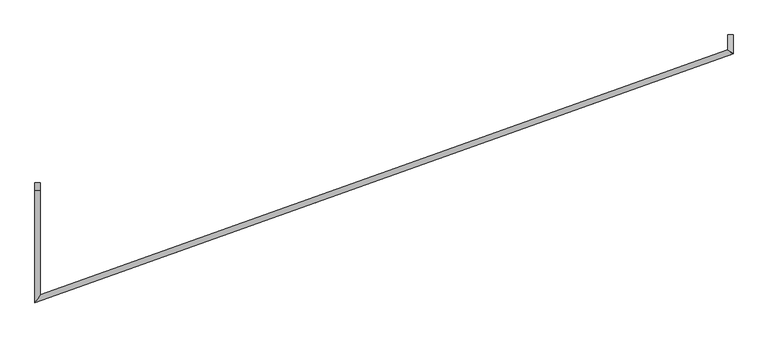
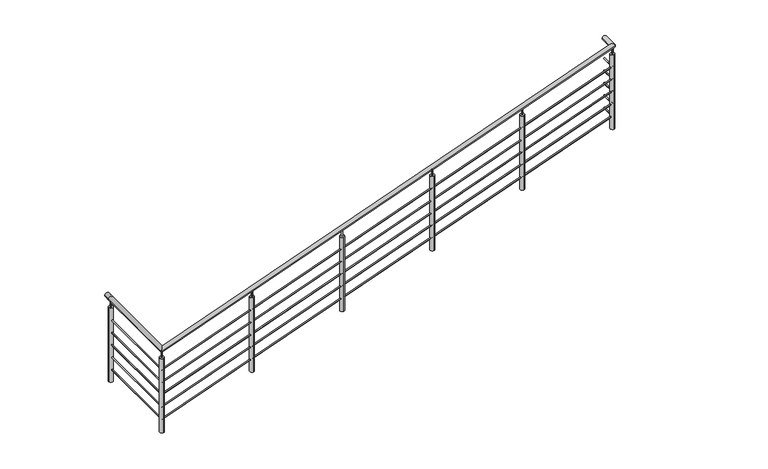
"""IFC4 building model written with IfcOpenShell, lengths in millimetres: railing geometry, Barandal general."""

import ifcopenshell
import ifcopenshell.guid

model = None  # the IFC model being written
_history = None  # IfcOwnerHistory: only IFC2X3 demands one
_inside = {}  # id of a spatial element -> (the spatial element, [elements in it])
_under = {}  # id of a project, library or spatial element -> (it, [spatial elements below it])
_declared = {}  # id of a project -> (the project, [libraries it declares])
_typed = {}  # id of a type object -> (the type object, [elements of that type])
_made_of = {}  # id of a material, layer set ... -> (it, [elements and type objects made of it])


def new_model(schema):
    """Start an empty IFC model of exactly this schema.

    Asked for "IFC4X3", IfcOpenShell would pick the latest addendum, in which some entities
    have other attributes; the version numbers below select the first issue.
    IFC2X3 requires an IfcOwnerHistory on every rooted entity: one is made here for all.
    """
    global model, _history
    if schema == "IFC4X3":
        model = ifcopenshell.file(schema_version=(4, 3, 0, 0))
    else:
        model = ifcopenshell.file(schema=schema)
    _inside.clear()
    _under.clear()
    _declared.clear()
    _typed.clear()
    _made_of.clear()
    _history = None
    if model.schema == "IFC2X3":
        org = make("IfcOrganization", Name="unknown")
        user = make(
            "IfcPersonAndOrganization",
            ThePerson=make("IfcPerson", FamilyName="unknown"),
            TheOrganization=org,
        )
        app = make(
            "IfcApplication",
            ApplicationDeveloper=org,
            Version="unknown",
            ApplicationFullName="unknown",
            ApplicationIdentifier="unknown",
        )
        _history = make(
            "IfcOwnerHistory",
            OwningUser=user,
            OwningApplication=app,
            ChangeAction="ADDED",
            CreationDate=0,
        )
    return model


def make(cls, **values):
    """One entity of the class cls with the attributes given. An attribute that is None is left unset."""
    return model.create_entity(
        cls, **{name: value for name, value in values.items() if value is not None}
    )


def rooted(cls, **values):
    """An entity with a GlobalId (a new one), such as an element, a storey or a relation."""
    return make(cls, GlobalId=ifcopenshell.guid.new(), OwnerHistory=_history, **values)


def si_unit(unit_type, name, prefix=None):
    """IfcSIUnit, for example si_unit("LENGTHUNIT", "METRE", prefix="MILLI")."""
    return make("IfcSIUnit", UnitType=unit_type, Prefix=prefix, Name=name)


def assignment(units):
    """IfcUnitAssignment: the units of a project."""
    return None if units is None else make("IfcUnitAssignment", Units=units)


def point(xyz):
    """IfcCartesianPoint."""
    return None if xyz is None else make("IfcCartesianPoint", Coordinates=xyz)


def direction(xyz):
    """IfcDirection."""
    return None if xyz is None else make("IfcDirection", DirectionRatios=xyz)


def frame(location, z_axis=None, x_axis=None):
    """IfcAxis2Placement3D, a coordinate frame: its origin and axes. An axis left out is left unset."""
    return make(
        "IfcAxis2Placement3D",
        Location=point(location),
        Axis=direction(z_axis),
        RefDirection=direction(x_axis),
    )


def frame_2d(location, x_axis=None):
    """IfcAxis2Placement2D, a coordinate frame in the plane: its origin and x axis."""
    return make(
        "IfcAxis2Placement2D", Location=point(location), RefDirection=direction(x_axis)
    )


def origin():
    """The frame at (0, 0, 0) with its axes left unset."""
    return frame((0.0, 0.0, 0.0))


def place(relative_to, where):
    """IfcLocalPlacement: puts the frame where relative to a parent placement (None: the world)."""
    return make(
        "IfcLocalPlacement", PlacementRelTo=relative_to, RelativePlacement=where
    )


def context(
    kind, dimensions, precision=None, world=None, true_north=None, identifier=None
):
    """IfcGeometricRepresentationContext, for example the 3D "Model" context."""
    return make(
        "IfcGeometricRepresentationContext",
        ContextIdentifier=identifier,
        ContextType=kind,
        CoordinateSpaceDimension=dimensions,
        Precision=precision,
        WorldCoordinateSystem=world,
        TrueNorth=true_north,
    )


def project(units=None, contexts=None):
    """IfcProject with its units and contexts."""
    return rooted(
        "IfcProject",
        Name="project",
        RepresentationContexts=contexts,
        UnitsInContext=assignment(units),
    )


def spatial(cls, under=None, at=None, **own):
    """A site, building, storey or space (cls), placed at a placement, below another one or the project."""
    s = rooted(cls, ObjectPlacement=at, **own)
    if under is not None:
        _under.setdefault(under.id(), (under, []))[1].append(s)
    return s


def circle_curve(where, radius):
    """IfcCircle in the frame where."""
    return make("IfcCircle", Position=where, Radius=radius)


def ellipse_curve(where, semi_axis1, semi_axis2):
    """IfcEllipse in the frame where."""
    return make(
        "IfcEllipse", Position=where, SemiAxis1=semi_axis1, SemiAxis2=semi_axis2
    )


def trimmed(basis, trim1, trim2, sense, master):
    """IfcTrimmedCurve: the piece of a basis curve between two trims."""
    return make(
        "IfcTrimmedCurve",
        BasisCurve=basis,
        Trim1=trim1,
        Trim2=trim2,
        SenseAgreement=sense,
        MasterRepresentation=master,
    )


def segment(curve, same_sense, transition):
    """IfcCompositeCurveSegment."""
    return make(
        "IfcCompositeCurveSegment",
        Transition=transition,
        SameSense=same_sense,
        ParentCurve=curve,
    )


def composite_curve(segments, self_intersect=None):
    """IfcCompositeCurve: segments joined end to end."""
    return make("IfcCompositeCurve", Segments=segments, SelfIntersect=self_intersect)


def outline(outer, holes=None, kind="AREA"):
    """IfcArbitraryClosedProfileDef: a profile drawn as a closed curve; with holes, ...WithVoids."""
    if holes is None:
        return make("IfcArbitraryClosedProfileDef", ProfileType=kind, OuterCurve=outer)
    return make(
        "IfcArbitraryProfileDefWithVoids",
        ProfileType=kind,
        OuterCurve=outer,
        InnerCurves=holes,
    )


def extrude(swept, where, along, depth):
    """IfcExtrudedAreaSolid: the profile swept, set in the frame where, extruded along a direction by depth."""
    return make(
        "IfcExtrudedAreaSolid",
        SweptArea=swept,
        Position=where,
        ExtrudedDirection=direction(along),
        Depth=depth,
    )


def shape(context_of_items, identifier, shape_type, items):
    """IfcShapeRepresentation: the items that make up one representation, for example the "Body"."""
    return make(
        "IfcShapeRepresentation",
        ContextOfItems=context_of_items,
        RepresentationIdentifier=identifier,
        RepresentationType=shape_type,
        Items=items,
    )


def source(mapping_origin, context_of_items, identifier, shape_type, items):
    """IfcRepresentationMap: a shape defined once, which mapped items show again and again."""
    return make(
        "IfcRepresentationMap",
        MappingOrigin=mapping_origin,
        MappedRepresentation=shape(context_of_items, identifier, shape_type, items),
    )


def transform(
    local_origin,
    x_axis=None,
    y_axis=None,
    z_axis=None,
    scale=None,
    scale2=None,
    scale3=None,
    uniform=True,
):
    """IfcCartesianTransformationOperator3D, or its non-uniform kind. x_axis, y_axis, z_axis: its Axis1, 2, 3."""
    if uniform:
        return make(
            "IfcCartesianTransformationOperator3D",
            Axis1=direction(x_axis),
            Axis2=direction(y_axis),
            LocalOrigin=point(local_origin),
            Scale=scale,
            Axis3=direction(z_axis),
        )
    return make(
        "IfcCartesianTransformationOperator3DnonUniform",
        Axis1=direction(x_axis),
        Axis2=direction(y_axis),
        LocalOrigin=point(local_origin),
        Scale=scale,
        Axis3=direction(z_axis),
        Scale2=scale2,
        Scale3=scale3,
    )


def mapped(mapping_source, mapping_target):
    """IfcMappedItem: shows the shape of a source again, moved by a transform."""
    return make(
        "IfcMappedItem", MappingSource=mapping_source, MappingTarget=mapping_target
    )


def made_of(thing, what):
    """Note that an element or type object is made of a material, layer set ...; save() writes the relation."""
    if what is not None:
        _made_of.setdefault(what.id(), (what, []))[1].append(thing)
    return thing


def element(
    cls,
    number,
    at=None,
    inside=None,
    cuts=None,
    type_object=None,
    material=None,
    context=None,
    identifier="Body",
    shape_type=None,
    held_by="IfcProductDefinitionShape",
    body=None,
    shapes=None,
    **own,
):
    """One element of the class cls, such as IfcWall. Its Tag is "e" and its number.

    at: its placement. inside: the storey or other place that contains it. cuts: it is an
    opening in that element (IfcRelVoidsElement). A single representation is given by context,
    identifier, shape_type and body (its items); several are given by shapes. held_by: the class
    of the entity that holds the representations. save() writes the other relations.
    """
    e = rooted(cls, Tag="e%d" % number, ObjectPlacement=at, **own)
    if body is not None:
        shapes = [shape(context, identifier, shape_type, body)]
    if shapes is not None:
        e.Representation = make(held_by, Representations=shapes)
    if inside is not None:
        _inside.setdefault(inside.id(), (inside, []))[1].append(e)
    if cuts is not None:
        rooted(
            "IfcRelVoidsElement", RelatingBuildingElement=cuts, RelatedOpeningElement=e
        )
    if type_object is not None:
        _typed.setdefault(type_object.id(), (type_object, []))[1].append(e)
    return made_of(e, material)


def aggregate(whole, parts):
    """IfcRelAggregates: a whole, such as a stair, and the parts it consists of."""
    return rooted("IfcRelAggregates", RelatingObject=whole, RelatedObjects=parts)


def save(model, path):
    """Write the relations noted so far, then the file.

    IfcRelAggregates (storeys below a building ...), IfcRelContainedInSpatialStructure (elements
    in a storey), IfcRelDefinesByType, IfcRelAssociatesMaterial and IfcRelDeclares: one each for
    every whole, place, type object, material and project.
    """
    for whole, parts in _under.values():
        aggregate(whole, parts)
    for where, things in _inside.values():
        rooted(
            "IfcRelContainedInSpatialStructure",
            RelatedElements=things,
            RelatingStructure=where,
        )
    for kind, things in _typed.values():
        rooted("IfcRelDefinesByType", RelatedObjects=things, RelatingType=kind)
    for what, things in _made_of.values():
        rooted("IfcRelAssociatesMaterial", RelatedObjects=things, RelatingMaterial=what)
    for by, libraries in _declared.values():
        rooted("IfcRelDeclares", RelatingContext=by, RelatedDefinitions=libraries)
    model.write(path)


def plane_surface(at):
    """IfcPlane: the flat surface through the origin of the frame at, square to its z axis."""
    return make("IfcPlane", Position=at)


def cylinder_surface(at, radius):
    """IfcCylindricalSurface: all points at the distance radius from the z axis of the frame at."""
    return make("IfcCylindricalSurface", Position=at, Radius=radius)


def advanced_brep(points, edges, surfaces, faces):
    """IfcAdvancedBrep: a solid bounded by faces that lie on surfaces and meet in shared edges.

    An edge is (start, end): straight between two places in points (the first is 0);
    or (start, end, curve); or (start, end, curve, False) where it runs against its curve.
    A face is (place in surfaces, loops), or (place, loops, False) where it looks against
    its surface's normal. A loop lists edges by number (the first is 1), with a minus sign
    where the edge is run from its end to its start. The first loop is the outer one.
    """
    corners = [point(p) for p in points]
    vertices = [make("IfcVertexPoint", VertexGeometry=c) for c in corners]
    made = []
    for start, end, *more in edges:
        made.append(
            make(
                "IfcEdgeCurve",
                EdgeStart=vertices[start],
                EdgeEnd=vertices[end],
                EdgeGeometry=more[0] if more else make("IfcPolyline", Points=[corners[start], corners[end]]),
                SameSense=more[1] if len(more) > 1 else True,
            )
        )
    hull = []
    for where, loops, *sense in faces:
        bounds = []
        for j, loop in enumerate(loops):
            ring = [make("IfcOrientedEdge", EdgeElement=made[abs(k) - 1], Orientation=k > 0) for k in loop]
            bounds.append(
                make(
                    "IfcFaceOuterBound" if j == 0 else "IfcFaceBound",
                    Bound=make("IfcEdgeLoop", EdgeList=ring),
                    Orientation=True,
                )
            )
        hull.append(make("IfcAdvancedFace", Bounds=bounds, FaceSurface=surfaces[where], SameSense=sense[0] if sense else True))
    return make("IfcAdvancedBrep", Outer=make("IfcClosedShell", CfsFaces=hull))


def railing_ef50bcf6(model_context):
    return source(origin(), model_context, "Body", "SolidModel", [
        advanced_brep(
        [(42883.0275078, 24829.0112971, 4000.0), (42832.2275078, 24829.0112971, 4000.0), (42883.0275078, 23850.0761645, 4000.0), (42832.2275078, 23778.0442839, 4000.0), (49344.1059119, 26152.5044571, 4000.0), (49394.9059119, 26116.6780983, 4000.0), (49344.1059119, 26294.0174003, 4000.0), (49394.9059119, 26294.0174003, 4000.0)],
        [
            (0, 1, circle_curve(frame((42857.6275078, 24829.0112971, 4000.0), z_axis=(0.0, 1.0, 0.0), x_axis=(-1.0, 0.0, 0.0)), 25.4)),
            (1, 0, circle_curve(frame((42857.6275078, 24829.0112971, 4000.0), z_axis=(0.0, 1.0, 0.0), x_axis=(-1.0, 0.0, 0.0)), 25.4)),
            (0, 2),
            (2, 3, ellipse_curve(frame((42857.6275078, 23814.0602242, 4000.0), z_axis=(-0.8172138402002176, 0.5763345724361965, 0.0), x_axis=(0.5763345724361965, 0.8172138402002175, 0.0)), 44.071623, 25.4)),
            (3, 1),
            (3, 2, ellipse_curve(frame((42857.6275078, 23814.0602242, 4000.0), z_axis=(-0.8172138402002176, 0.5763345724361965, 0.0), x_axis=(0.5763345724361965, 0.8172138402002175, 0.0)), 44.071623, 25.4)),
            (2, 4),
            (4, 5, ellipse_curve(frame((49369.5059119, 26134.5912777, 4000.0), z_axis=(-0.5763345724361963, -0.8172138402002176, 0.0), x_axis=(-0.8172138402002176, 0.5763345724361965, 0.0)), 31.0812161, 25.4)),
            (5, 3),
            (5, 4, ellipse_curve(frame((49369.5059119, 26134.5912777, 4000.0), z_axis=(-0.5763345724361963, -0.8172138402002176, 0.0), x_axis=(-0.8172138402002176, 0.5763345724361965, 0.0)), 31.0812161, 25.4)),
            (6, 7, circle_curve(frame((49369.5059119, 26294.0174003, 4000.0), z_axis=(0.0, 1.0, 0.0), x_axis=(1.0, 0.0, 0.0)), 25.4)),
            (7, 6, circle_curve(frame((49369.5059119, 26294.0174003, 4000.0), z_axis=(0.0, 1.0, 0.0), x_axis=(1.0, 0.0, 0.0)), 25.4)),
            (4, 6),
            (7, 5),
        ],
        [
            plane_surface(frame((42857.6275078, 24829.0112971, 4000.0), z_axis=(0.0, 1.0, 0.0), x_axis=(0.0, 0.0, -1.0))),
            cylinder_surface(frame((42857.6275078, 24829.0112971, 4000.0), z_axis=(0.0, 1.0, 0.0), x_axis=(-1.0, 0.0, 0.0)), 25.4),
            cylinder_surface(frame((42857.6275078, 23814.0602242, 4000.0), z_axis=(-0.941977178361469, -0.3356769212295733, 0.0), x_axis=(0.3356769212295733, -0.941977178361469, 0.0)), 25.4),
            plane_surface(frame((49369.5059119, 26294.0174003, 4000.0), z_axis=(0.0, 1.0, 0.0), x_axis=(0.0, 0.0, 1.0))),
            cylinder_surface(frame((49369.5059119, 26134.5912777, 4000.0), z_axis=(0.0, -1.0, 0.0), x_axis=(1.0, 0.0, 0.0)), 25.4),
        ],
        [
            (0, [[1, 2]]),
            (1, [[-1, 3, 4, 5]]),
            (1, [[-2, -5, 6, -3]]),
            (2, [[-4, 7, 8, 9]]),
            (2, [[-6, -9, 10, -7]]),
            (3, [[11, 12]]),
            (4, [[-8, 13, -12, 14]]),
            (4, [[-10, -14, -11, -13]]),
        ],
    ),
        advanced_brep(
        [(42863.9775078, 24829.0112971, 3750.0), (42851.2775078, 24829.0112971, 3750.0), (42863.9775078, 23823.0642093, 3750.0), (42851.2775078, 23805.0562391, 3750.0), (49363.1559119, 26139.0695726, 3750.0), (49375.8559119, 26130.1129829, 3750.0), (49363.1559119, 26294.0174003, 3750.0), (49375.8559119, 26294.0174003, 3750.0)],
        [
            (0, 1, circle_curve(frame((42857.6275078, 24829.0112971, 3750.0), z_axis=(0.0, 1.0, 0.0), x_axis=(-1.0, 0.0, 0.0)), 6.35)),
            (1, 0, circle_curve(frame((42857.6275078, 24829.0112971, 3750.0), z_axis=(0.0, 1.0, 0.0), x_axis=(-1.0, 0.0, 0.0)), 6.35)),
            (0, 2),
            (2, 3, ellipse_curve(frame((42857.6275078, 23814.0602242, 3750.0), z_axis=(-0.8172138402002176, 0.5763345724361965, 0.0), x_axis=(0.5763345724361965, 0.8172138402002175, 0.0)), 11.0179058, 6.35)),
            (3, 1),
            (3, 2, ellipse_curve(frame((42857.6275078, 23814.0602242, 3750.0), z_axis=(-0.8172138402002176, 0.5763345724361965, 0.0), x_axis=(0.5763345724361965, 0.8172138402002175, 0.0)), 11.0179058, 6.35)),
            (2, 4),
            (4, 5, ellipse_curve(frame((49369.5059119, 26134.5912777, 3750.0), z_axis=(-0.5763345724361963, -0.8172138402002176, 0.0), x_axis=(-0.8172138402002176, 0.5763345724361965, 0.0)), 7.770304, 6.35)),
            (5, 3),
            (5, 4, ellipse_curve(frame((49369.5059119, 26134.5912777, 3750.0), z_axis=(-0.5763345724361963, -0.8172138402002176, 0.0), x_axis=(-0.8172138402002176, 0.5763345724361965, 0.0)), 7.770304, 6.35)),
            (6, 7, circle_curve(frame((49369.5059119, 26294.0174003, 3750.0), z_axis=(0.0, 1.0, 0.0), x_axis=(1.0, 0.0, 0.0)), 6.35)),
            (7, 6, circle_curve(frame((49369.5059119, 26294.0174003, 3750.0), z_axis=(0.0, 1.0, 0.0), x_axis=(1.0, 0.0, 0.0)), 6.35)),
            (4, 6),
            (7, 5),
        ],
        [
            plane_surface(frame((42857.6275078, 24829.0112971, 3750.0), z_axis=(0.0, 1.0, 0.0), x_axis=(0.0, 0.0, -1.0))),
            cylinder_surface(frame((42857.6275078, 24829.0112971, 3750.0), z_axis=(0.0, 1.0, 0.0), x_axis=(-1.0, 0.0, 0.0)), 6.35),
            cylinder_surface(frame((42857.6275078, 23814.0602242, 3750.0), z_axis=(-0.941977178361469, -0.3356769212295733, 0.0), x_axis=(0.3356769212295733, -0.941977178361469, 0.0)), 6.35),
            plane_surface(frame((49369.5059119, 26294.0174003, 3750.0), z_axis=(0.0, 1.0, 0.0), x_axis=(0.0, 0.0, 1.0))),
            cylinder_surface(frame((49369.5059119, 26134.5912777, 3750.0), z_axis=(0.0, -1.0, 0.0), x_axis=(1.0, 0.0, 0.0)), 6.35),
        ],
        [
            (0, [[1, 2]]),
            (1, [[-1, 3, 4, 5]]),
            (1, [[-2, -5, 6, -3]]),
            (2, [[-4, 7, 8, 9]]),
            (2, [[-6, -9, 10, -7]]),
            (3, [[11, 12]]),
            (4, [[-8, 13, -12, 14]]),
            (4, [[-10, -14, -11, -13]]),
        ],
    ),
        advanced_brep(
        [(42863.9775078, 24829.0112971, 3600.0), (42851.2775078, 24829.0112971, 3600.0), (42863.9775078, 23823.0642093, 3600.0), (42851.2775078, 23805.0562391, 3600.0), (49363.1559119, 26139.0695726, 3600.0), (49375.8559119, 26130.1129829, 3600.0), (49363.1559119, 26294.0174003, 3600.0), (49375.8559119, 26294.0174003, 3600.0)],
        [
            (0, 1, circle_curve(frame((42857.6275078, 24829.0112971, 3600.0), z_axis=(0.0, 1.0, 0.0), x_axis=(-1.0, 0.0, 0.0)), 6.35)),
            (1, 0, circle_curve(frame((42857.6275078, 24829.0112971, 3600.0), z_axis=(0.0, 1.0, 0.0), x_axis=(-1.0, 0.0, 0.0)), 6.35)),
            (0, 2),
            (2, 3, ellipse_curve(frame((42857.6275078, 23814.0602242, 3600.0), z_axis=(-0.8172138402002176, 0.5763345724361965, 0.0), x_axis=(0.5763345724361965, 0.8172138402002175, 0.0)), 11.0179058, 6.35)),
            (3, 1),
            (3, 2, ellipse_curve(frame((42857.6275078, 23814.0602242, 3600.0), z_axis=(-0.8172138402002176, 0.5763345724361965, 0.0), x_axis=(0.5763345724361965, 0.8172138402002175, 0.0)), 11.0179058, 6.35)),
            (2, 4),
            (4, 5, ellipse_curve(frame((49369.5059119, 26134.5912777, 3600.0), z_axis=(-0.5763345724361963, -0.8172138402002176, 0.0), x_axis=(-0.8172138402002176, 0.5763345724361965, 0.0)), 7.770304, 6.35)),
            (5, 3),
            (5, 4, ellipse_curve(frame((49369.5059119, 26134.5912777, 3600.0), z_axis=(-0.5763345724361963, -0.8172138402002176, 0.0), x_axis=(-0.8172138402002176, 0.5763345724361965, 0.0)), 7.770304, 6.35)),
            (6, 7, circle_curve(frame((49369.5059119, 26294.0174003, 3600.0), z_axis=(0.0, 1.0, 0.0), x_axis=(1.0, 0.0, 0.0)), 6.35)),
            (7, 6, circle_curve(frame((49369.5059119, 26294.0174003, 3600.0), z_axis=(0.0, 1.0, 0.0), x_axis=(1.0, 0.0, 0.0)), 6.35)),
            (4, 6),
            (7, 5),
        ],
        [
            plane_surface(frame((42857.6275078, 24829.0112971, 3600.0), z_axis=(0.0, 1.0, 0.0), x_axis=(0.0, 0.0, -1.0))),
            cylinder_surface(frame((42857.6275078, 24829.0112971, 3600.0), z_axis=(0.0, 1.0, 0.0), x_axis=(-1.0, 0.0, 0.0)), 6.35),
            cylinder_surface(frame((42857.6275078, 23814.0602242, 3600.0), z_axis=(-0.941977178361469, -0.3356769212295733, 0.0), x_axis=(0.3356769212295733, -0.941977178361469, 0.0)), 6.35),
            plane_surface(frame((49369.5059119, 26294.0174003, 3600.0), z_axis=(0.0, 1.0, 0.0), x_axis=(0.0, 0.0, 1.0))),
            cylinder_surface(frame((49369.5059119, 26134.5912777, 3600.0), z_axis=(0.0, -1.0, 0.0), x_axis=(1.0, 0.0, 0.0)), 6.35),
        ],
        [
            (0, [[1, 2]]),
            (1, [[-1, 3, 4, 5]]),
            (1, [[-2, -5, 6, -3]]),
            (2, [[-4, 7, 8, 9]]),
            (2, [[-6, -9, 10, -7]]),
            (3, [[11, 12]]),
            (4, [[-8, 13, -12, 14]]),
            (4, [[-10, -14, -11, -13]]),
        ],
    ),
        advanced_brep(
        [(42863.9775078, 24829.0112971, 3450.0), (42851.2775078, 24829.0112971, 3450.0), (42863.9775078, 23823.0642093, 3450.0), (42851.2775078, 23805.0562391, 3450.0), (49363.1559119, 26139.0695726, 3450.0), (49375.8559119, 26130.1129829, 3450.0), (49363.1559119, 26294.0174003, 3450.0), (49375.8559119, 26294.0174003, 3450.0)],
        [
            (0, 1, circle_curve(frame((42857.6275078, 24829.0112971, 3450.0), z_axis=(0.0, 1.0, 0.0), x_axis=(-1.0, 0.0, 0.0)), 6.35)),
            (1, 0, circle_curve(frame((42857.6275078, 24829.0112971, 3450.0), z_axis=(0.0, 1.0, 0.0), x_axis=(-1.0, 0.0, 0.0)), 6.35)),
            (0, 2),
            (2, 3, ellipse_curve(frame((42857.6275078, 23814.0602242, 3450.0), z_axis=(-0.8172138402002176, 0.5763345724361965, 0.0), x_axis=(0.5763345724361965, 0.8172138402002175, 0.0)), 11.0179058, 6.35)),
            (3, 1),
            (3, 2, ellipse_curve(frame((42857.6275078, 23814.0602242, 3450.0), z_axis=(-0.8172138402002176, 0.5763345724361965, 0.0), x_axis=(0.5763345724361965, 0.8172138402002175, 0.0)), 11.0179058, 6.35)),
            (2, 4),
            (4, 5, ellipse_curve(frame((49369.5059119, 26134.5912777, 3450.0), z_axis=(-0.5763345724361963, -0.8172138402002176, 0.0), x_axis=(-0.8172138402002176, 0.5763345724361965, 0.0)), 7.770304, 6.35)),
            (5, 3),
            (5, 4, ellipse_curve(frame((49369.5059119, 26134.5912777, 3450.0), z_axis=(-0.5763345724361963, -0.8172138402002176, 0.0), x_axis=(-0.8172138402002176, 0.5763345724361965, 0.0)), 7.770304, 6.35)),
            (6, 7, circle_curve(frame((49369.5059119, 26294.0174003, 3450.0), z_axis=(0.0, 1.0, 0.0), x_axis=(1.0, 0.0, 0.0)), 6.35)),
            (7, 6, circle_curve(frame((49369.5059119, 26294.0174003, 3450.0), z_axis=(0.0, 1.0, 0.0), x_axis=(1.0, 0.0, 0.0)), 6.35)),
            (4, 6),
            (7, 5),
        ],
        [
            plane_surface(frame((42857.6275078, 24829.0112971, 3450.0), z_axis=(0.0, 1.0, 0.0), x_axis=(0.0, 0.0, -1.0))),
            cylinder_surface(frame((42857.6275078, 24829.0112971, 3450.0), z_axis=(0.0, 1.0, 0.0), x_axis=(-1.0, 0.0, 0.0)), 6.35),
            cylinder_surface(frame((42857.6275078, 23814.0602242, 3450.0), z_axis=(-0.941977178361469, -0.3356769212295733, 0.0), x_axis=(0.3356769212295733, -0.941977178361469, 0.0)), 6.35),
            plane_surface(frame((49369.5059119, 26294.0174003, 3450.0), z_axis=(0.0, 1.0, 0.0), x_axis=(0.0, 0.0, 1.0))),
            cylinder_surface(frame((49369.5059119, 26134.5912777, 3450.0), z_axis=(0.0, -1.0, 0.0), x_axis=(1.0, 0.0, 0.0)), 6.35),
        ],
        [
            (0, [[1, 2]]),
            (1, [[-1, 3, 4, 5]]),
            (1, [[-2, -5, 6, -3]]),
            (2, [[-4, 7, 8, 9]]),
            (2, [[-6, -9, 10, -7]]),
            (3, [[11, 12]]),
            (4, [[-8, 13, -12, 14]]),
            (4, [[-10, -14, -11, -13]]),
        ],
    ),
        advanced_brep(
        [(42863.9775078, 24829.0112971, 3300.0), (42851.2775078, 24829.0112971, 3300.0), (42863.9775078, 23823.0642093, 3300.0), (42851.2775078, 23805.0562391, 3300.0), (49363.1559119, 26139.0695726, 3300.0), (49375.8559119, 26130.1129829, 3300.0), (49363.1559119, 26294.0174003, 3300.0), (49375.8559119, 26294.0174003, 3300.0)],
        [
            (0, 1, circle_curve(frame((42857.6275078, 24829.0112971, 3300.0), z_axis=(0.0, 1.0, 0.0), x_axis=(-1.0, 0.0, 0.0)), 6.35)),
            (1, 0, circle_curve(frame((42857.6275078, 24829.0112971, 3300.0), z_axis=(0.0, 1.0, 0.0), x_axis=(-1.0, 0.0, 0.0)), 6.35)),
            (0, 2),
            (2, 3, ellipse_curve(frame((42857.6275078, 23814.0602242, 3300.0), z_axis=(-0.8172138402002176, 0.5763345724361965, 0.0), x_axis=(0.5763345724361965, 0.8172138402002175, 0.0)), 11.0179058, 6.35)),
            (3, 1),
            (3, 2, ellipse_curve(frame((42857.6275078, 23814.0602242, 3300.0), z_axis=(-0.8172138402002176, 0.5763345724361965, 0.0), x_axis=(0.5763345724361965, 0.8172138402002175, 0.0)), 11.0179058, 6.35)),
            (2, 4),
            (4, 5, ellipse_curve(frame((49369.5059119, 26134.5912777, 3300.0), z_axis=(-0.5763345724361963, -0.8172138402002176, 0.0), x_axis=(-0.8172138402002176, 0.5763345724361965, 0.0)), 7.770304, 6.35)),
            (5, 3),
            (5, 4, ellipse_curve(frame((49369.5059119, 26134.5912777, 3300.0), z_axis=(-0.5763345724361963, -0.8172138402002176, 0.0), x_axis=(-0.8172138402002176, 0.5763345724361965, 0.0)), 7.770304, 6.35)),
            (6, 7, circle_curve(frame((49369.5059119, 26294.0174003, 3300.0), z_axis=(0.0, 1.0, 0.0), x_axis=(1.0, 0.0, 0.0)), 6.35)),
            (7, 6, circle_curve(frame((49369.5059119, 26294.0174003, 3300.0), z_axis=(0.0, 1.0, 0.0), x_axis=(1.0, 0.0, 0.0)), 6.35)),
            (4, 6),
            (7, 5),
        ],
        [
            plane_surface(frame((42857.6275078, 24829.0112971, 3300.0), z_axis=(0.0, 1.0, 0.0), x_axis=(0.0, 0.0, -1.0))),
            cylinder_surface(frame((42857.6275078, 24829.0112971, 3300.0), z_axis=(0.0, 1.0, 0.0), x_axis=(-1.0, 0.0, 0.0)), 6.35),
            cylinder_surface(frame((42857.6275078, 23814.0602242, 3300.0), z_axis=(-0.941977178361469, -0.3356769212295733, 0.0), x_axis=(0.3356769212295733, -0.941977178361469, 0.0)), 6.35),
            plane_surface(frame((49369.5059119, 26294.0174003, 3300.0), z_axis=(0.0, 1.0, 0.0), x_axis=(0.0, 0.0, 1.0))),
            cylinder_surface(frame((49369.5059119, 26134.5912777, 3300.0), z_axis=(0.0, -1.0, 0.0), x_axis=(1.0, 0.0, 0.0)), 6.35),
        ],
        [
            (0, [[1, 2]]),
            (1, [[-1, 3, 4, 5]]),
            (1, [[-2, -5, 6, -3]]),
            (2, [[-4, 7, 8, 9]]),
            (2, [[-6, -9, 10, -7]]),
            (3, [[11, 12]]),
            (4, [[-8, 13, -12, 14]]),
            (4, [[-10, -14, -11, -13]]),
        ],
    ),
        advanced_brep(
        [(42863.9775078, 24829.0112971, 3150.0), (42851.2775078, 24829.0112971, 3150.0), (42863.9775078, 23823.0642093, 3150.0), (42851.2775078, 23805.0562391, 3150.0), (49363.1559119, 26139.0695726, 3150.0), (49375.8559119, 26130.1129829, 3150.0), (49363.1559119, 26294.0174003, 3150.0), (49375.8559119, 26294.0174003, 3150.0)],
        [
            (0, 1, circle_curve(frame((42857.6275078, 24829.0112971, 3150.0), z_axis=(0.0, 1.0, 0.0), x_axis=(-1.0, 0.0, 0.0)), 6.35)),
            (1, 0, circle_curve(frame((42857.6275078, 24829.0112971, 3150.0), z_axis=(0.0, 1.0, 0.0), x_axis=(-1.0, 0.0, 0.0)), 6.35)),
            (0, 2),
            (2, 3, ellipse_curve(frame((42857.6275078, 23814.0602242, 3150.0), z_axis=(-0.8172138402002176, 0.5763345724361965, 0.0), x_axis=(0.5763345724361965, 0.8172138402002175, 0.0)), 11.0179058, 6.35)),
            (3, 1),
            (3, 2, ellipse_curve(frame((42857.6275078, 23814.0602242, 3150.0), z_axis=(-0.8172138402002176, 0.5763345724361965, 0.0), x_axis=(0.5763345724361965, 0.8172138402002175, 0.0)), 11.0179058, 6.35)),
            (2, 4),
            (4, 5, ellipse_curve(frame((49369.5059119, 26134.5912777, 3150.0), z_axis=(-0.5763345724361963, -0.8172138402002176, 0.0), x_axis=(-0.8172138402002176, 0.5763345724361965, 0.0)), 7.770304, 6.35)),
            (5, 3),
            (5, 4, ellipse_curve(frame((49369.5059119, 26134.5912777, 3150.0), z_axis=(-0.5763345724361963, -0.8172138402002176, 0.0), x_axis=(-0.8172138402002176, 0.5763345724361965, 0.0)), 7.770304, 6.35)),
            (6, 7, circle_curve(frame((49369.5059119, 26294.0174003, 3150.0), z_axis=(0.0, 1.0, 0.0), x_axis=(1.0, 0.0, 0.0)), 6.35)),
            (7, 6, circle_curve(frame((49369.5059119, 26294.0174003, 3150.0), z_axis=(0.0, 1.0, 0.0), x_axis=(1.0, 0.0, 0.0)), 6.35)),
            (4, 6),
            (7, 5),
        ],
        [
            plane_surface(frame((42857.6275078, 24829.0112971, 3150.0), z_axis=(0.0, 1.0, 0.0), x_axis=(0.0, 0.0, -1.0))),
            cylinder_surface(frame((42857.6275078, 24829.0112971, 3150.0), z_axis=(0.0, 1.0, 0.0), x_axis=(-1.0, 0.0, 0.0)), 6.35),
            cylinder_surface(frame((42857.6275078, 23814.0602242, 3150.0), z_axis=(-0.941977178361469, -0.3356769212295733, 0.0), x_axis=(0.3356769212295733, -0.941977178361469, 0.0)), 6.35),
            plane_surface(frame((49369.5059119, 26294.0174003, 3150.0), z_axis=(0.0, 1.0, 0.0), x_axis=(0.0, 0.0, 1.0))),
            cylinder_surface(frame((49369.5059119, 26134.5912777, 3150.0), z_axis=(0.0, -1.0, 0.0), x_axis=(1.0, 0.0, 0.0)), 6.35),
        ],
        [
            (0, [[1, 2]]),
            (1, [[-1, 3, 4, 5]]),
            (1, [[-2, -5, 6, -3]]),
            (2, [[-4, 7, 8, 9]]),
            (2, [[-6, -9, 10, -7]]),
            (3, [[11, 12]]),
            (4, [[-8, 13, -12, 14]]),
            (4, [[-10, -14, -11, -13]]),
        ],
    ),
        extrude(outline(composite_curve([segment(trimmed(circle_curve(frame_2d((49369.5059119, 26134.5912777)), 6.35), [point((49371.6374604, 26128.6097226))], [point((49367.3743635, 26140.5728328))], False, "CARTESIAN"), True, "CONTINUOUS"), segment(trimmed(circle_curve(frame_2d((49369.5059119, 26134.5912777)), 6.35), [point((49367.3743635, 26140.5728328))], [point((49371.6374604, 26128.6097226))], False, "CARTESIAN"), True, "CONTINUOUS")], self_intersect=False)), frame((0.0, 0.0, 3899.6), z_axis=(0.0, 0.0, 1.0), x_axis=(1.0, 0.0, 0.0)), (0.0, 0.0, 1.0), 75.0),
        extrude(outline(composite_curve([segment(trimmed(circle_curve(frame_2d((49369.5059119, 26134.5912777)), 25.4), [point((49378.0321057, 26110.6650574))], [point((49360.9797181, 26158.517498))], False, "CARTESIAN"), True, "CONTINUOUS"), segment(trimmed(circle_curve(frame_2d((49369.5059119, 26134.5912777)), 25.4), [point((49360.9797181, 26158.517498))], [point((49378.0321057, 26110.6650574))], False, "CARTESIAN"), True, "CONTINUOUS")], self_intersect=False)), frame((0.0, 0.0, 3000.0), z_axis=(0.0, 0.0, 1.0), x_axis=(1.0, 0.0, 0.0)), (0.0, 0.0, 1.0), 899.6),
        extrude(outline(composite_curve([segment(trimmed(circle_curve(frame_2d((48067.1302311, 25670.485067)), 6.35), [point((48069.2617796, 25664.5035119))], [point((48064.9986827, 25676.4666221))], False, "CARTESIAN"), True, "CONTINUOUS"), segment(trimmed(circle_curve(frame_2d((48067.1302311, 25670.485067)), 6.35), [point((48064.9986827, 25676.4666221))], [point((48069.2617796, 25664.5035119))], False, "CARTESIAN"), True, "CONTINUOUS")], self_intersect=False)), frame((0.0, 0.0, 3899.6), z_axis=(0.0, 0.0, 1.0), x_axis=(1.0, 0.0, 0.0)), (0.0, 0.0, 1.0), 75.0),
        extrude(outline(composite_curve([segment(trimmed(circle_curve(frame_2d((48067.1302311, 25670.485067)), 25.4), [point((48075.6564249, 25646.5588467))], [point((48058.6040373, 25694.4112873))], False, "CARTESIAN"), True, "CONTINUOUS"), segment(trimmed(circle_curve(frame_2d((48067.1302311, 25670.485067)), 25.4), [point((48058.6040373, 25694.4112873))], [point((48075.6564249, 25646.5588467))], False, "CARTESIAN"), True, "CONTINUOUS")], self_intersect=False)), frame((0.0, 0.0, 3000.0), z_axis=(0.0, 0.0, 1.0), x_axis=(1.0, 0.0, 0.0)), (0.0, 0.0, 1.0), 899.6),
        extrude(outline(composite_curve([segment(trimmed(circle_curve(frame_2d((46764.7545503, 25206.3788563)), 6.35), [point((46766.8860987, 25200.3973012))], [point((46762.6230018, 25212.3604114))], False, "CARTESIAN"), True, "CONTINUOUS"), segment(trimmed(circle_curve(frame_2d((46764.7545503, 25206.3788563)), 6.35), [point((46762.6230018, 25212.3604114))], [point((46766.8860987, 25200.3973012))], False, "CARTESIAN"), True, "CONTINUOUS")], self_intersect=False)), frame((0.0, 0.0, 3899.6), z_axis=(0.0, 0.0, 1.0), x_axis=(1.0, 0.0, 0.0)), (0.0, 0.0, 1.0), 75.0),
        extrude(outline(composite_curve([segment(trimmed(circle_curve(frame_2d((46764.7545503, 25206.3788563)), 25.4), [point((46773.2807441, 25182.452636))], [point((46756.2283565, 25230.3050766))], False, "CARTESIAN"), True, "CONTINUOUS"), segment(trimmed(circle_curve(frame_2d((46764.7545503, 25206.3788563)), 25.4), [point((46756.2283565, 25230.3050766))], [point((46773.2807441, 25182.452636))], False, "CARTESIAN"), True, "CONTINUOUS")], self_intersect=False)), frame((0.0, 0.0, 3000.0), z_axis=(0.0, 0.0, 1.0), x_axis=(1.0, 0.0, 0.0)), (0.0, 0.0, 1.0), 899.6),
        extrude(outline(composite_curve([segment(trimmed(circle_curve(frame_2d((45462.3788695, 24742.2726456)), 6.35), [point((45464.5104179, 24736.2910905))], [point((45460.247321, 24748.2542007))], False, "CARTESIAN"), True, "CONTINUOUS"), segment(trimmed(circle_curve(frame_2d((45462.3788695, 24742.2726456)), 6.35), [point((45460.247321, 24748.2542007))], [point((45464.5104179, 24736.2910905))], False, "CARTESIAN"), True, "CONTINUOUS")], self_intersect=False)), frame((0.0, 0.0, 3899.6), z_axis=(0.0, 0.0, 1.0), x_axis=(1.0, 0.0, 0.0)), (0.0, 0.0, 1.0), 75.0),
        extrude(outline(composite_curve([segment(trimmed(circle_curve(frame_2d((45462.3788695, 24742.2726456)), 25.4), [point((45470.9050633, 24718.3464253))], [point((45453.8526757, 24766.1988659))], False, "CARTESIAN"), True, "CONTINUOUS"), segment(trimmed(circle_curve(frame_2d((45462.3788695, 24742.2726456)), 25.4), [point((45453.8526757, 24766.1988659))], [point((45470.9050633, 24718.3464253))], False, "CARTESIAN"), True, "CONTINUOUS")], self_intersect=False)), frame((0.0, 0.0, 3000.0), z_axis=(0.0, 0.0, 1.0), x_axis=(1.0, 0.0, 0.0)), (0.0, 0.0, 1.0), 899.6),
        extrude(outline(composite_curve([segment(trimmed(circle_curve(frame_2d((44160.0031887, 24278.1664349)), 6.35), [point((44162.1347371, 24272.1848798))], [point((44157.8716402, 24284.14799))], False, "CARTESIAN"), True, "CONTINUOUS"), segment(trimmed(circle_curve(frame_2d((44160.0031887, 24278.1664349)), 6.35), [point((44157.8716402, 24284.14799))], [point((44162.1347371, 24272.1848798))], False, "CARTESIAN"), True, "CONTINUOUS")], self_intersect=False)), frame((0.0, 0.0, 3899.6), z_axis=(0.0, 0.0, 1.0), x_axis=(1.0, 0.0, 0.0)), (0.0, 0.0, 1.0), 75.0),
        extrude(outline(composite_curve([segment(trimmed(circle_curve(frame_2d((44160.0031887, 24278.1664349)), 25.4), [point((44168.5293825, 24254.2402146))], [point((44151.4769949, 24302.0926552))], False, "CARTESIAN"), True, "CONTINUOUS"), segment(trimmed(circle_curve(frame_2d((44160.0031887, 24278.1664349)), 25.4), [point((44151.4769949, 24302.0926552))], [point((44168.5293825, 24254.2402146))], False, "CARTESIAN"), True, "CONTINUOUS")], self_intersect=False)), frame((0.0, 0.0, 3000.0), z_axis=(0.0, 0.0, 1.0), x_axis=(1.0, 0.0, 0.0)), (0.0, 0.0, 1.0), 899.6),
        extrude(outline(composite_curve([segment(trimmed(circle_curve(frame_2d((42857.6275078, 23814.0602242)), 6.35), [point((42859.7590563, 23808.0786691))], [point((42855.4959594, 23820.0417793))], False, "CARTESIAN"), True, "CONTINUOUS"), segment(trimmed(circle_curve(frame_2d((42857.6275078, 23814.0602242)), 6.35), [point((42855.4959594, 23820.0417793))], [point((42859.7590563, 23808.0786691))], False, "CARTESIAN"), True, "CONTINUOUS")], self_intersect=False)), frame((0.0, 0.0, 3899.6), z_axis=(0.0, 0.0, 1.0), x_axis=(1.0, 0.0, 0.0)), (0.0, 0.0, 1.0), 75.0),
        extrude(outline(composite_curve([segment(trimmed(circle_curve(frame_2d((42857.6275078, 23814.0602242)), 25.4), [point((42866.1537016, 23790.1340039))], [point((42849.101314, 23837.9864445))], False, "CARTESIAN"), True, "CONTINUOUS"), segment(trimmed(circle_curve(frame_2d((42857.6275078, 23814.0602242)), 25.4), [point((42849.101314, 23837.9864445))], [point((42866.1537016, 23790.1340039))], False, "CARTESIAN"), True, "CONTINUOUS")], self_intersect=False)), frame((0.0, 0.0, 3000.0), z_axis=(0.0, 0.0, 1.0), x_axis=(1.0, 0.0, 0.0)), (0.0, 0.0, 1.0), 899.6),
        extrude(outline(composite_curve([segment(trimmed(circle_curve(frame_2d((42857.6275078, 23814.0602242)), 6.35), [point((42851.2775078, 23814.0602242))], [point((42863.9775078, 23814.0602242))], False, "CARTESIAN"), True, "CONTINUOUS"), segment(trimmed(circle_curve(frame_2d((42857.6275078, 23814.0602242)), 6.35), [point((42863.9775078, 23814.0602242))], [point((42851.2775078, 23814.0602242))], False, "CARTESIAN"), True, "CONTINUOUS")], self_intersect=False)), frame((0.0, 0.0, 3899.6), z_axis=(0.0, 0.0, 1.0), x_axis=(1.0, 0.0, 0.0)), (0.0, 0.0, 1.0), 75.0),
        extrude(outline(composite_curve([segment(trimmed(circle_curve(frame_2d((42857.6275078, 23814.0602242)), 25.4), [point((42832.2275078, 23814.0602242))], [point((42883.0275078, 23814.0602242))], False, "CARTESIAN"), True, "CONTINUOUS"), segment(trimmed(circle_curve(frame_2d((42857.6275078, 23814.0602242)), 25.4), [point((42883.0275078, 23814.0602242))], [point((42832.2275078, 23814.0602242))], False, "CARTESIAN"), True, "CONTINUOUS")], self_intersect=False)), frame((0.0, 0.0, 3000.0), z_axis=(0.0, 0.0, 1.0), x_axis=(1.0, 0.0, 0.0)), (0.0, 0.0, 1.0), 899.6),
        extrude(outline(composite_curve([segment(trimmed(circle_curve(frame_2d((4000.0, 42857.6275078)), 25.4), [point((4000.0, 42832.2275078))], [point((4000.0, 42883.0275078))], False, "CARTESIAN"), True, "CONTINUOUS"), segment(trimmed(circle_curve(frame_2d((4000.0, 42857.6275078)), 25.4), [point((4000.0, 42883.0275078))], [point((4000.0, 42832.2275078))], False, "CARTESIAN"), True, "CONTINUOUS")], self_intersect=False)), frame((0.0, 24829.0112971, 0.0), z_axis=(0.0, 1.0, 0.0), x_axis=(0.0, 0.0, 1.0)), (0.0, 0.0, 1.0), 75.0),
        extrude(outline(composite_curve([segment(trimmed(circle_curve(frame_2d((42857.6275078, 24829.0112971)), 6.35), [point((42851.2775078, 24829.0112971))], [point((42863.9775078, 24829.0112971))], False, "CARTESIAN"), True, "CONTINUOUS"), segment(trimmed(circle_curve(frame_2d((42857.6275078, 24829.0112971)), 6.35), [point((42863.9775078, 24829.0112971))], [point((42851.2775078, 24829.0112971))], False, "CARTESIAN"), True, "CONTINUOUS")], self_intersect=False)), frame((0.0, 0.0, 3899.6), z_axis=(0.0, 0.0, 1.0), x_axis=(1.0, 0.0, 0.0)), (0.0, 0.0, 1.0), 75.0),
        extrude(outline(composite_curve([segment(trimmed(circle_curve(frame_2d((42857.6275078, 24829.0112971)), 25.4), [point((42832.2275078, 24829.0112971))], [point((42883.0275078, 24829.0112971))], False, "CARTESIAN"), True, "CONTINUOUS"), segment(trimmed(circle_curve(frame_2d((42857.6275078, 24829.0112971)), 25.4), [point((42883.0275078, 24829.0112971))], [point((42832.2275078, 24829.0112971))], False, "CARTESIAN"), True, "CONTINUOUS")], self_intersect=False)), frame((0.0, 0.0, 3000.0), z_axis=(0.0, 0.0, 1.0), x_axis=(1.0, 0.0, 0.0)), (0.0, 0.0, 1.0), 899.6),
    ])


if __name__ == "__main__":
    model = new_model("IFC4")
    model_context = context("Model", 3, world=origin())
    ifc_project = project(units=[si_unit("LENGTHUNIT", "METRE", prefix="MILLI")], contexts=[model_context])
    site = spatial("IfcSite", under=ifc_project)
    building = spatial("IfcBuilding", under=site)
    placement = place(None, origin())
    railing_shape = railing_ef50bcf6(model_context)
    element("IfcRailing", 1, ObjectType="Barandal general", at=placement, inside=building, context=model_context, shape_type="MappedRepresentation", body=[
        mapped(railing_shape, transform((0.0, 0.0, 0.0), x_axis=(1.0, 0.0, 0.0), y_axis=(0.0, 1.0, 0.0), z_axis=(0.0, 0.0, 1.0))),
    ])
    save(model, "model.ifc")
